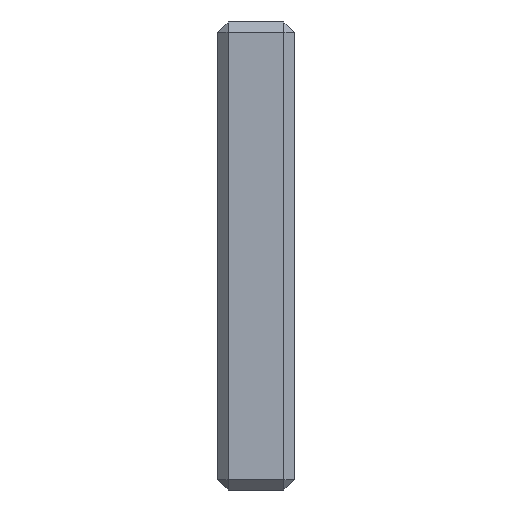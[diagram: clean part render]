
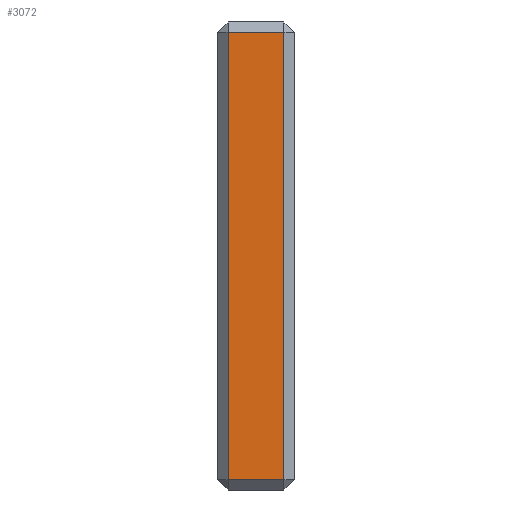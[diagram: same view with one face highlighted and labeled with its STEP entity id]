
A CAD part, left-side view. The second image highlights one B-rep face of the part: STEP entity #3072.
In plain terms, the highlighted planar face has unit normal (-1, 0, 0).
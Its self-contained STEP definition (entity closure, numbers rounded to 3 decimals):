
#445=FACE_OUTER_BOUND('',#671,.T.);
#671=EDGE_LOOP('',(#2460,#2461,#2462,#2463));
#942=LINE('',#4900,#1224);
#946=LINE('',#4907,#1228);
#947=LINE('',#4909,#1229);
#948=LINE('',#4911,#1230);
#1224=VECTOR('',#3955,10.);
#1228=VECTOR('',#3963,10.);
#1229=VECTOR('',#3966,10.);
#1230=VECTOR('',#3969,10.);
#1525=VERTEX_POINT('',#4888);
#1526=VERTEX_POINT('',#4892);
#1527=VERTEX_POINT('',#4896);
#1528=VERTEX_POINT('',#4903);
#1854=EDGE_CURVE('',#1525,#1527,#942,.T.);
#1858=EDGE_CURVE('',#1527,#1528,#946,.T.);
#1859=EDGE_CURVE('',#1528,#1526,#947,.T.);
#1860=EDGE_CURVE('',#1526,#1525,#948,.T.);
#2460=ORIENTED_EDGE('',*,*,#1854,.F.);
#2461=ORIENTED_EDGE('',*,*,#1860,.F.);
#2462=ORIENTED_EDGE('',*,*,#1859,.F.);
#2463=ORIENTED_EDGE('',*,*,#1858,.F.);
#2962=PLANE('',#3350);
#3072=ADVANCED_FACE('',(#445),#2962,.T.);
#3350=AXIS2_PLACEMENT_3D('',#4917,#3976,#3977);
#3955=DIRECTION('',(0.,1.,0.));
#3963=DIRECTION('',(0.,0.,1.));
#3966=DIRECTION('',(0.,-1.,0.));
#3969=DIRECTION('',(0.,0.,-1.));
#3976=DIRECTION('center_axis',(-1.,0.,0.));
#3977=DIRECTION('ref_axis',(0.,0.,1.));
#4888=CARTESIAN_POINT('',(-100.,-13.,-42.));
#4892=CARTESIAN_POINT('',(-100.,-13.,46.));
#4896=CARTESIAN_POINT('',(-100.,-2.,-42.));
#4900=CARTESIAN_POINT('',(-100.,-7.5,-42.));
#4903=CARTESIAN_POINT('',(-100.,-2.,46.));
#4907=CARTESIAN_POINT('',(-100.,-2.,1.));
#4909=CARTESIAN_POINT('',(-100.,-7.5,46.));
#4911=CARTESIAN_POINT('',(-100.,-13.,1.));
#4917=CARTESIAN_POINT('Origin',(-100.,-7.5,2.));
